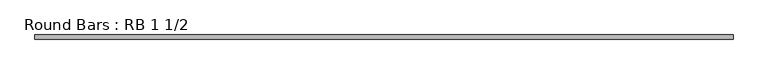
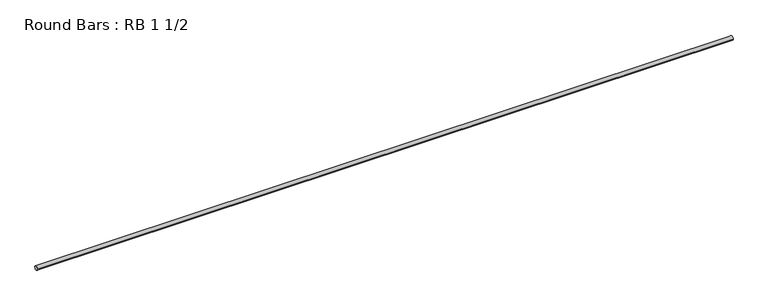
"""IFC4 building model written with IfcOpenShell, lengths in millimetres: member geometry, Round Bars : RB 1 1/2."""

from ifc_helpers import new_model, si_unit, point, frame, origin, origin_2d, place, context, project, spatial, circle_curve, trimmed, segment, composite_curve, outline, extrude, source, transform, mapped, element, save


def round_bars_rb_1_1_2_fe050973(model_context):
    return source(origin(), model_context, "Body", "SweptSolid", [
        extrude(outline(composite_curve([segment(trimmed(circle_curve(origin_2d(), 19.05), [point((19.05, 0.0))], [point((-19.05, 0.0))], False, "CARTESIAN"), True, "CONTINUOUS"), segment(trimmed(circle_curve(origin_2d(), 19.05), [point((-19.05, 0.0))], [point((19.05, 0.0))], False, "CARTESIAN"), True, "CONTINUOUS")], self_intersect=False)), frame((-3239.3893443, 0.0, 0.0), z_axis=(1.0, 0.0, 0.0), x_axis=(0.0, 1.0, 0.0)), (0.0, 0.0, 1.0), 6478.7786887),
    ])


if __name__ == "__main__":
    model = new_model("IFC4")
    model_context = context("Model", 3, world=origin())
    ifc_project = project(units=[si_unit("LENGTHUNIT", "METRE", prefix="MILLI")], contexts=[model_context])
    site = spatial("IfcSite", under=ifc_project)
    building = spatial("IfcBuilding", under=site)
    placement = place(None, origin())
    round_bars_rb_1_1_2_shape = round_bars_rb_1_1_2_fe050973(model_context)
    element("IfcMember", 1, ObjectType="Round Bars : RB 1 1/2", at=placement, inside=building, context=model_context, shape_type="MappedRepresentation", body=[
        mapped(round_bars_rb_1_1_2_shape, transform((0.0, 0.0, 0.0), x_axis=(1.0, 0.0, 0.0), y_axis=(0.0, 1.0, 0.0), z_axis=(0.0, 0.0, 1.0))),
    ])
    save(model, "model.ifc")
